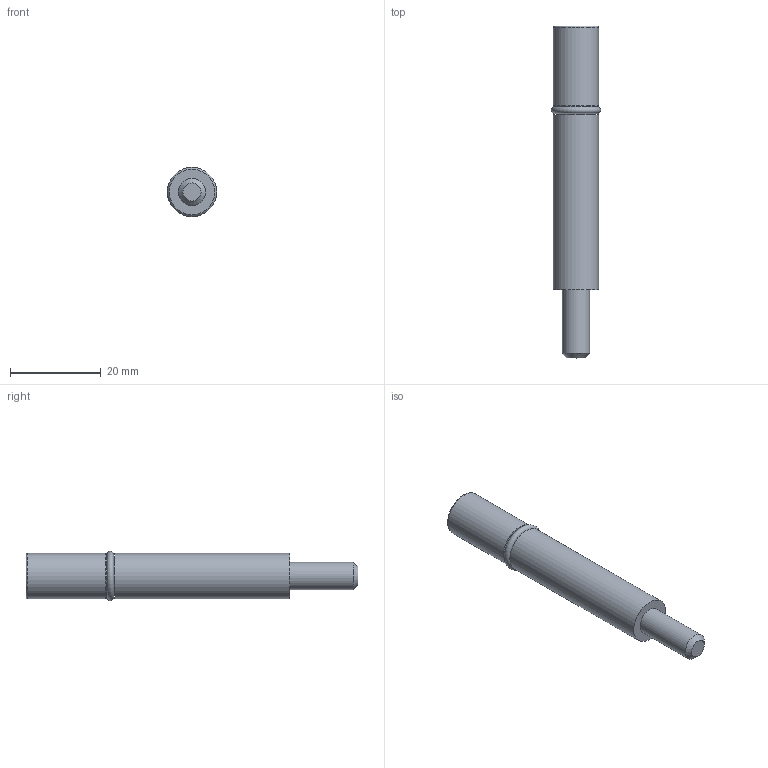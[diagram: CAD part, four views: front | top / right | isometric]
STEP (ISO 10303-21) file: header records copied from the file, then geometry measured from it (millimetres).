
FILE_DESCRIPTION (( 'STEP AP214' ), '1' );
FILE_NAME ('F11307.step', '2024-12-03T16:15:01', ( '' ), ( '' ), 'SwSTEP 2.0', 'SolidWorks 2023', '' );
FILE_SCHEMA (( 'AUTOMOTIVE_DESIGN' ));
Length unit declared in the file: millimetre
Products named in the file (1): F11307
Bounding box: 10.85 x 73 x 10.85 mm (x, y, z)
Volume: 4854 mm3; surface area: 2518 mm2
Topology: 2 solids, 2 shells, 19 faces, 36 edges, 23 vertices
Faces by surface type: plane 12, cylinder 4, torus 2, cone 1
Full cylindrical faces by diameter (mm): 6 x1, 7.85 x1, 10 x2
Entity records: 464 total; most frequent: DIRECTION 78, CARTESIAN_POINT 70, ORIENTED_EDGE 56, AXIS2_PLACEMENT_3D 30, EDGE_CURVE 28, EDGE_LOOP 28, FACE_OUTER_BOUND 23, VERTEX_POINT 22
